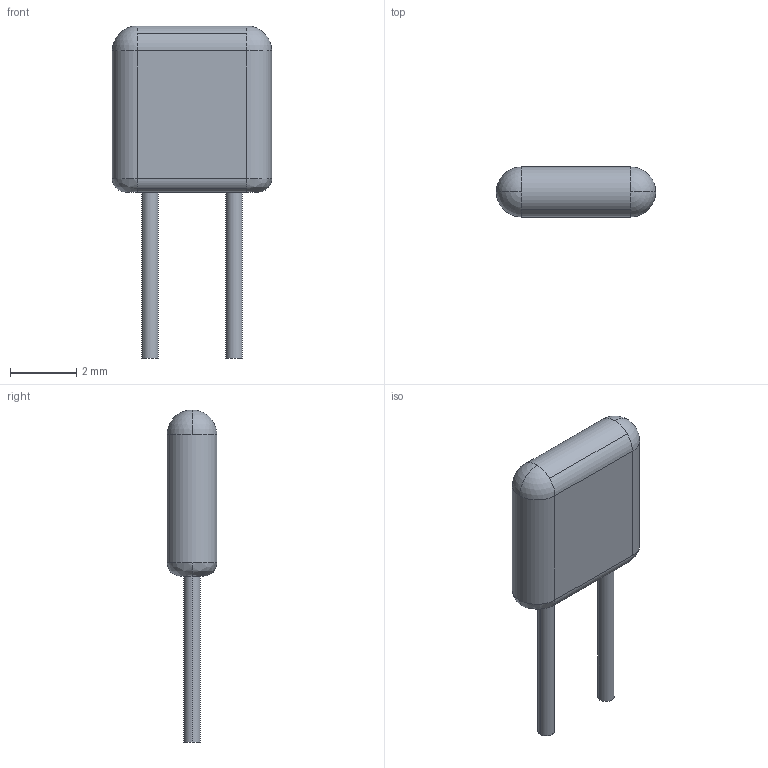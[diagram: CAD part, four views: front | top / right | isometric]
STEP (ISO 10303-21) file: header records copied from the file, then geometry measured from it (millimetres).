
FILE_DESCRIPTION((''),'2;1');
FILE_NAME('\\tsclient\C\Users\davide\Documents\DownLoad Arduino\Models\MLCC_4.8mm_1.5mm_P2.54.stp','2019-03-12T20:14:05',('XPMUser'),(''),'Autodesk Inventor (tm) 5.3','Autodesk Inventor (tm) 5.3','');
FILE_SCHEMA(('AUTOMOTIVE_DESIGN { 1 2 10303 214 0 1 1 1 }'));
Length unit declared in the file: millimetre
Products named in the file (3): MLCC_4.8mm_1.5mm_P2.54mm; Cap_Body; Cap_Pin
Assembly tree (3 placements, depth 2):
  MLCC_4.8mm_1.5mm_P2.54mm
    Cap_Body
    Cap_Pin  x2
Bounding box: 4.8 x 1.5 x 10 mm (x, y, z)
Volume: 33.9 mm3; surface area: 80.6 mm2
Topology: 3 solids, 3 shells, 27 faces, 59 edges, 34 vertices
Faces by surface type: cylinder 12, plane 7, sphere 4, bspline 4
Entity records: 884 total; most frequent: CARTESIAN_POINT 284, DIRECTION 133, ORIENTED_EDGE 98, AXIS2_PLACEMENT_3D 59, EDGE_CURVE 49, CIRCLE 34, VERTEX_POINT 30, EDGE_LOOP 23
